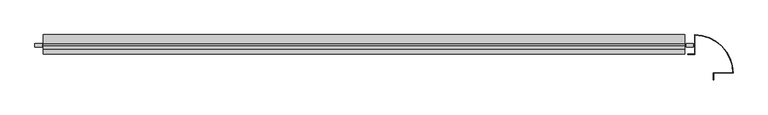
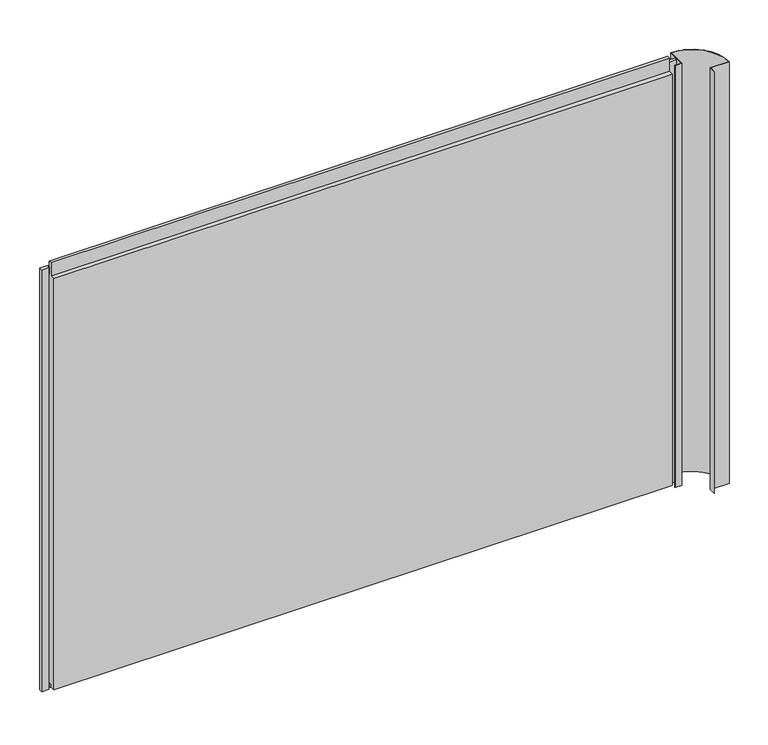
"""IFC4 building model written with IfcOpenShell, lengths in millimetres: plate geometry, Trimo_Qbiss Screen_Normal Panel-HORIZONTAL : HR - B."""

import ifcopenshell
import ifcopenshell.guid

model = None  # the IFC model being written
_history = None  # IfcOwnerHistory: only IFC2X3 demands one
_inside = {}  # id of a spatial element -> (the spatial element, [elements in it])
_under = {}  # id of a project, library or spatial element -> (it, [spatial elements below it])
_declared = {}  # id of a project -> (the project, [libraries it declares])
_typed = {}  # id of a type object -> (the type object, [elements of that type])
_made_of = {}  # id of a material, layer set ... -> (it, [elements and type objects made of it])


def new_model(schema):
    """Start an empty IFC model of exactly this schema.

    Asked for "IFC4X3", IfcOpenShell would pick the latest addendum, in which some entities
    have other attributes; the version numbers below select the first issue.
    IFC2X3 requires an IfcOwnerHistory on every rooted entity: one is made here for all.
    """
    global model, _history
    if schema == "IFC4X3":
        model = ifcopenshell.file(schema_version=(4, 3, 0, 0))
    else:
        model = ifcopenshell.file(schema=schema)
    _inside.clear()
    _under.clear()
    _declared.clear()
    _typed.clear()
    _made_of.clear()
    _history = None
    if model.schema == "IFC2X3":
        org = make("IfcOrganization", Name="unknown")
        user = make(
            "IfcPersonAndOrganization",
            ThePerson=make("IfcPerson", FamilyName="unknown"),
            TheOrganization=org,
        )
        app = make(
            "IfcApplication",
            ApplicationDeveloper=org,
            Version="unknown",
            ApplicationFullName="unknown",
            ApplicationIdentifier="unknown",
        )
        _history = make(
            "IfcOwnerHistory",
            OwningUser=user,
            OwningApplication=app,
            ChangeAction="ADDED",
            CreationDate=0,
        )
    return model


def make(cls, **values):
    """One entity of the class cls with the attributes given. An attribute that is None is left unset."""
    return model.create_entity(
        cls, **{name: value for name, value in values.items() if value is not None}
    )


def rooted(cls, **values):
    """An entity with a GlobalId (a new one), such as an element, a storey or a relation."""
    return make(cls, GlobalId=ifcopenshell.guid.new(), OwnerHistory=_history, **values)


def si_unit(unit_type, name, prefix=None):
    """IfcSIUnit, for example si_unit("LENGTHUNIT", "METRE", prefix="MILLI")."""
    return make("IfcSIUnit", UnitType=unit_type, Prefix=prefix, Name=name)


def assignment(units):
    """IfcUnitAssignment: the units of a project."""
    return None if units is None else make("IfcUnitAssignment", Units=units)


def point(xyz):
    """IfcCartesianPoint."""
    return None if xyz is None else make("IfcCartesianPoint", Coordinates=xyz)


def direction(xyz):
    """IfcDirection."""
    return None if xyz is None else make("IfcDirection", DirectionRatios=xyz)


def frame(location, z_axis=None, x_axis=None):
    """IfcAxis2Placement3D, a coordinate frame: its origin and axes. An axis left out is left unset."""
    return make(
        "IfcAxis2Placement3D",
        Location=point(location),
        Axis=direction(z_axis),
        RefDirection=direction(x_axis),
    )


def frame_2d(location, x_axis=None):
    """IfcAxis2Placement2D, a coordinate frame in the plane: its origin and x axis."""
    return make(
        "IfcAxis2Placement2D", Location=point(location), RefDirection=direction(x_axis)
    )


def origin():
    """The frame at (0, 0, 0) with its axes left unset."""
    return frame((0.0, 0.0, 0.0))


def place(relative_to, where):
    """IfcLocalPlacement: puts the frame where relative to a parent placement (None: the world)."""
    return make(
        "IfcLocalPlacement", PlacementRelTo=relative_to, RelativePlacement=where
    )


def context(
    kind, dimensions, precision=None, world=None, true_north=None, identifier=None
):
    """IfcGeometricRepresentationContext, for example the 3D "Model" context."""
    return make(
        "IfcGeometricRepresentationContext",
        ContextIdentifier=identifier,
        ContextType=kind,
        CoordinateSpaceDimension=dimensions,
        Precision=precision,
        WorldCoordinateSystem=world,
        TrueNorth=true_north,
    )


def project(units=None, contexts=None):
    """IfcProject with its units and contexts."""
    return rooted(
        "IfcProject",
        Name="project",
        RepresentationContexts=contexts,
        UnitsInContext=assignment(units),
    )


def spatial(cls, under=None, at=None, **own):
    """A site, building, storey or space (cls), placed at a placement, below another one or the project."""
    s = rooted(cls, ObjectPlacement=at, **own)
    if under is not None:
        _under.setdefault(under.id(), (under, []))[1].append(s)
    return s


def polyline(points):
    """IfcPolyline through the points."""
    return make("IfcPolyline", Points=[point(p) for p in points])


def circle_curve(where, radius):
    """IfcCircle in the frame where."""
    return make("IfcCircle", Position=where, Radius=radius)


def trimmed(basis, trim1, trim2, sense, master):
    """IfcTrimmedCurve: the piece of a basis curve between two trims."""
    return make(
        "IfcTrimmedCurve",
        BasisCurve=basis,
        Trim1=trim1,
        Trim2=trim2,
        SenseAgreement=sense,
        MasterRepresentation=master,
    )


def segment(curve, same_sense, transition):
    """IfcCompositeCurveSegment."""
    return make(
        "IfcCompositeCurveSegment",
        Transition=transition,
        SameSense=same_sense,
        ParentCurve=curve,
    )


def composite_curve(segments, self_intersect=None):
    """IfcCompositeCurve: segments joined end to end."""
    return make("IfcCompositeCurve", Segments=segments, SelfIntersect=self_intersect)


def outline(outer, holes=None, kind="AREA"):
    """IfcArbitraryClosedProfileDef: a profile drawn as a closed curve; with holes, ...WithVoids."""
    if holes is None:
        return make("IfcArbitraryClosedProfileDef", ProfileType=kind, OuterCurve=outer)
    return make(
        "IfcArbitraryProfileDefWithVoids",
        ProfileType=kind,
        OuterCurve=outer,
        InnerCurves=holes,
    )


def extrude(swept, where, along, depth):
    """IfcExtrudedAreaSolid: the profile swept, set in the frame where, extruded along a direction by depth."""
    return make(
        "IfcExtrudedAreaSolid",
        SweptArea=swept,
        Position=where,
        ExtrudedDirection=direction(along),
        Depth=depth,
    )


def shape(context_of_items, identifier, shape_type, items):
    """IfcShapeRepresentation: the items that make up one representation, for example the "Body"."""
    return make(
        "IfcShapeRepresentation",
        ContextOfItems=context_of_items,
        RepresentationIdentifier=identifier,
        RepresentationType=shape_type,
        Items=items,
    )


def source(mapping_origin, context_of_items, identifier, shape_type, items):
    """IfcRepresentationMap: a shape defined once, which mapped items show again and again."""
    return make(
        "IfcRepresentationMap",
        MappingOrigin=mapping_origin,
        MappedRepresentation=shape(context_of_items, identifier, shape_type, items),
    )


def transform(
    local_origin,
    x_axis=None,
    y_axis=None,
    z_axis=None,
    scale=None,
    scale2=None,
    scale3=None,
    uniform=True,
):
    """IfcCartesianTransformationOperator3D, or its non-uniform kind. x_axis, y_axis, z_axis: its Axis1, 2, 3."""
    if uniform:
        return make(
            "IfcCartesianTransformationOperator3D",
            Axis1=direction(x_axis),
            Axis2=direction(y_axis),
            LocalOrigin=point(local_origin),
            Scale=scale,
            Axis3=direction(z_axis),
        )
    return make(
        "IfcCartesianTransformationOperator3DnonUniform",
        Axis1=direction(x_axis),
        Axis2=direction(y_axis),
        LocalOrigin=point(local_origin),
        Scale=scale,
        Axis3=direction(z_axis),
        Scale2=scale2,
        Scale3=scale3,
    )


def mapped(mapping_source, mapping_target):
    """IfcMappedItem: shows the shape of a source again, moved by a transform."""
    return make(
        "IfcMappedItem", MappingSource=mapping_source, MappingTarget=mapping_target
    )


def made_of(thing, what):
    """Note that an element or type object is made of a material, layer set ...; save() writes the relation."""
    if what is not None:
        _made_of.setdefault(what.id(), (what, []))[1].append(thing)
    return thing


def element(
    cls,
    number,
    at=None,
    inside=None,
    cuts=None,
    type_object=None,
    material=None,
    context=None,
    identifier="Body",
    shape_type=None,
    held_by="IfcProductDefinitionShape",
    body=None,
    shapes=None,
    **own,
):
    """One element of the class cls, such as IfcWall. Its Tag is "e" and its number.

    at: its placement. inside: the storey or other place that contains it. cuts: it is an
    opening in that element (IfcRelVoidsElement). A single representation is given by context,
    identifier, shape_type and body (its items); several are given by shapes. held_by: the class
    of the entity that holds the representations. save() writes the other relations.
    """
    e = rooted(cls, Tag="e%d" % number, ObjectPlacement=at, **own)
    if body is not None:
        shapes = [shape(context, identifier, shape_type, body)]
    if shapes is not None:
        e.Representation = make(held_by, Representations=shapes)
    if inside is not None:
        _inside.setdefault(inside.id(), (inside, []))[1].append(e)
    if cuts is not None:
        rooted(
            "IfcRelVoidsElement", RelatingBuildingElement=cuts, RelatedOpeningElement=e
        )
    if type_object is not None:
        _typed.setdefault(type_object.id(), (type_object, []))[1].append(e)
    return made_of(e, material)


def aggregate(whole, parts):
    """IfcRelAggregates: a whole, such as a stair, and the parts it consists of."""
    return rooted("IfcRelAggregates", RelatingObject=whole, RelatedObjects=parts)


def save(model, path):
    """Write the relations noted so far, then the file.

    IfcRelAggregates (storeys below a building ...), IfcRelContainedInSpatialStructure (elements
    in a storey), IfcRelDefinesByType, IfcRelAssociatesMaterial and IfcRelDeclares: one each for
    every whole, place, type object, material and project.
    """
    for whole, parts in _under.values():
        aggregate(whole, parts)
    for where, things in _inside.values():
        rooted(
            "IfcRelContainedInSpatialStructure",
            RelatedElements=things,
            RelatingStructure=where,
        )
    for kind, things in _typed.values():
        rooted("IfcRelDefinesByType", RelatedObjects=things, RelatingType=kind)
    for what, things in _made_of.values():
        rooted("IfcRelAssociatesMaterial", RelatedObjects=things, RelatingMaterial=what)
    for by, libraries in _declared.values():
        rooted("IfcRelDeclares", RelatingContext=by, RelatedDefinitions=libraries)
    model.write(path)


def plate_3f1cfa51(model_context):
    return source(origin(), model_context, "Body", "SweptSolid", [
        extrude(outline(polyline([(-840.5, 76.5978162), (-840.5, 67.8978162), (-859.5, 67.8978162), (-859.5, 76.5978162), (-840.5, 76.5978162)])), frame((0.0, 0.0, -1.0), z_axis=(0.0, 0.0, 1.0), x_axis=(1.0, 0.0, 0.0)), (0.0, 0.0, 1.0), 1200.0),
        extrude(outline(polyline([(828.0, 67.8978162), (828.0, 76.5978162), (847.0, 76.5978162), (847.0, 67.8978162), (828.0, 67.8978162)])), frame((0.0, 0.0, -1.0), z_axis=(0.0, 0.0, 1.0), x_axis=(1.0, 0.0, 0.0)), (0.0, 0.0, 1.0), 1200.0),
        extrude(outline(polyline([(825.0, 76.0), (825.0, 71.0), (-837.5, 71.0), (-837.5, 76.0), (825.0, 76.0)])), frame((0.0, 0.0, 1178.0), z_axis=(0.0, 0.0, 1.0), x_axis=(1.0, 0.0, 0.0)), (0.0, 0.0, 1.0), 21.0),
        extrude(outline(polyline([(71.0, 1177.0), (100.0, 1177.0), (100.0, 0.0), (72.0, 0.0), (72.0, 15.5), (62.0, 15.5), (62.0, 7.0), (50.0, 7.0), (50.0, 1177.0), (63.0, 1177.0), (63.0, 1214.5), (71.0, 1214.5), (71.0, 1177.0)])), frame((-837.5, 0.0, 0.0), z_axis=(1.0, 0.0, 0.0), x_axis=(0.0, 1.0, 0.0)), (0.0, 0.0, 1.0), 1662.5),
        extrude(outline(composite_curve([segment(polyline([(850.0, 50.0), (850.0, 100.0)]), True, "CONTINUOUS"), segment(trimmed(circle_curve(frame_2d((850.0, 0.0)), 100.0), [point((850.0, 100.0))], [point((950.0, 0.0))], False, "CARTESIAN"), True, "CONTINUOUS"), segment(polyline([(950.0, 0.0), (900.0, 0.0), (900.0, -17.5), (899.2, -17.5), (899.2, 0.8), (949.1967741, 0.8)]), True, "CONTINUOUS"), segment(trimmed(circle_curve(frame_2d((850.0, 0.0)), 99.2), [point((949.1967741, 0.8))], [point((850.8, 99.1967741))], True, "CARTESIAN"), True, "CONTINUOUS"), segment(polyline([(850.8, 99.1967741), (850.8, 49.2), (832.5, 49.2), (832.5, 50.0), (850.0, 50.0)]), True, "CONTINUOUS")], self_intersect=False)), frame((0.0, 0.0, -1.0), z_axis=(0.0, 0.0, 1.0), x_axis=(1.0, 0.0, 0.0)), (0.0, 0.0, 1.0), 1200.0),
    ])


if __name__ == "__main__":
    model = new_model("IFC4")
    model_context = context("Model", 3, world=origin())
    ifc_project = project(units=[si_unit("LENGTHUNIT", "METRE", prefix="MILLI")], contexts=[model_context])
    site = spatial("IfcSite", under=ifc_project)
    building = spatial("IfcBuilding", under=site)
    placement = place(None, origin())
    plate_shape = plate_3f1cfa51(model_context)
    element("IfcPlate", 1, ObjectType="Trimo_Qbiss Screen_Normal Panel-HORIZONTAL : HR - B", at=placement, inside=building, context=model_context, shape_type="MappedRepresentation", body=[
        mapped(plate_shape, transform((0.0, 0.0, 0.0), x_axis=(1.0, 0.0, 0.0), y_axis=(0.0, 1.0, 0.0), z_axis=(0.0, 0.0, 1.0))),
    ])
    save(model, "model.ifc")
